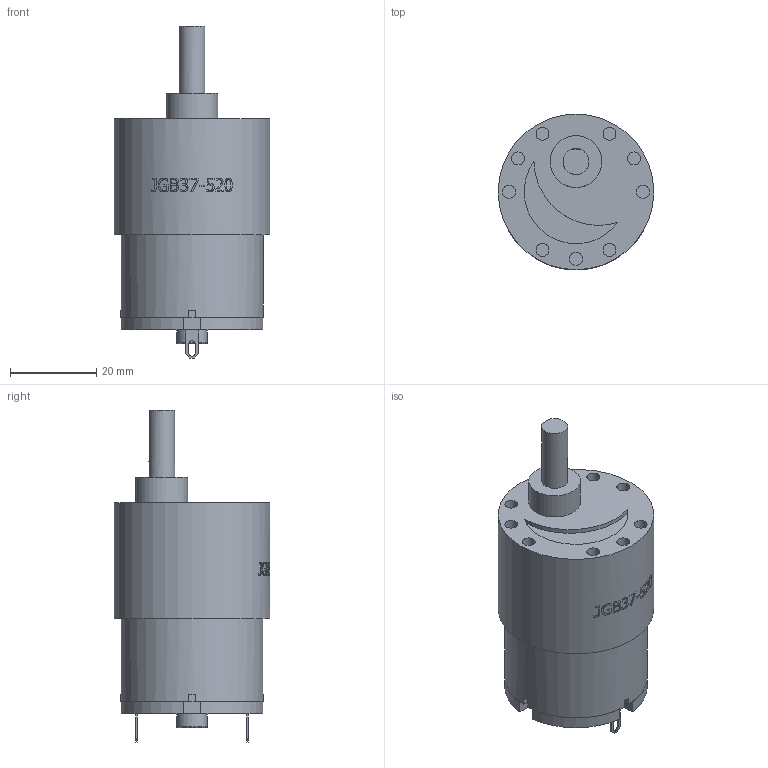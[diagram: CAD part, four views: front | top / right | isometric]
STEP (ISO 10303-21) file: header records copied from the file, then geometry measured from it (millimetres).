
FILE_DESCRIPTION(/* description */ ('','CAx-IF Rec.Pracs.---Representation and Presentation of Product Manufacturing Information (PMI)---4.0---2014-10-13'),/* implementation_level */ '2;1');
FILE_NAME(/* name */ 'JGB37-520.stp',/* time_stamp */ '2025-10-30T12:54:37+07:00',/* author */ ('quang'),/* organization */ (''),/* preprocessor_version */ 'ST-DEVELOPER v20',/* originating_system */ 'Autodesk Inventor 2024',/* authorisation */ '');
FILE_SCHEMA (('AP242_MANAGED_MODEL_BASED_3D_ENGINEERING_MIM_LF { 1 0 10303 442 1 1 4 }'));
Length unit declared in the file: millimetre
Products named in the file (1): JGB37-520
Bounding box: 36 x 36 x 76.8 mm (x, y, z)
Volume: 46574.7 mm3; surface area: 10479.6 mm2
Topology: 3 solids, 3 shells, 293 faces, 754 edges, 497 vertices
Faces by surface type: plane 148, bspline 90, cylinder 54, torus 1
Full cylindrical faces by diameter (mm): 2.8 x1, 3 x10, 6 x1, 7 x1, 12 x1, 33 x1, 36 x1
Entity records: 12561 total; most frequent: CARTESIAN_POINT 4797, ORIENTED_EDGE 1524, DIRECTION 1276, EDGE_CURVE 762, VERTEX_POINT 497, STYLED_ITEM 477, AXIS2_PLACEMENT_3D 426, LINE 424
